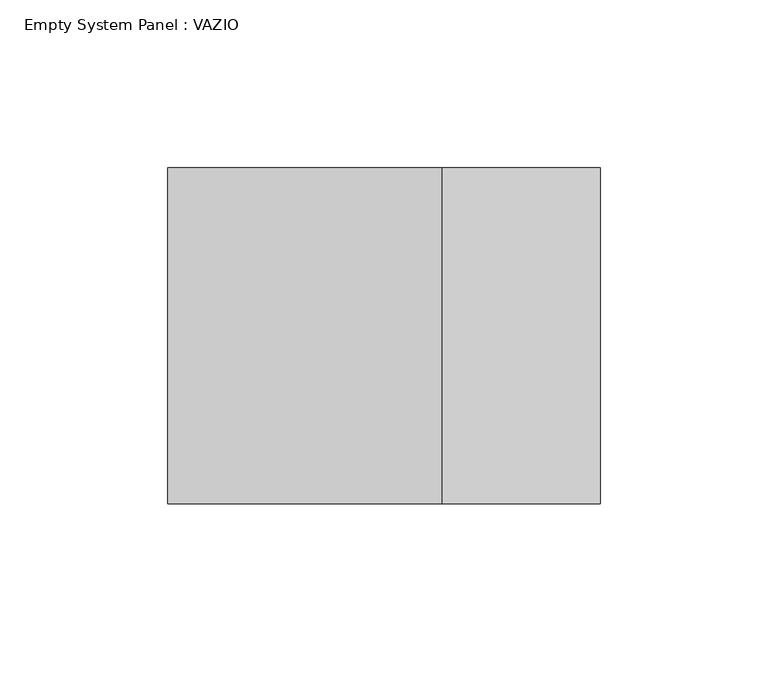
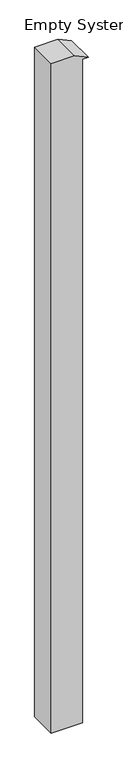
"""IFC4 building model written with IfcOpenShell, lengths in millimetres: plate geometry, Empty System Panel : VAZIO."""

from ifc_helpers import new_model, si_unit, point, frame, frame_2d, origin, place, context, project, spatial, polyline, circle_curve, trimmed, segment, composite_curve, outline, extrude, source, transform, mapped, element, save


def empty_system_panel_vazio_95a1346f(model_context):
    return source(origin(), model_context, "Body", "SweptSolid", [
        extrude(outline(composite_curve([segment(polyline([(0.0, -64.3902439), (0.0, 44.3902439), (2441.7244845, 44.3902439), (2441.7244845, 64.3902439)]), True, "CONTINUOUS"), segment(trimmed(circle_curve(frame_2d((-470.6496213, -1294.6341463)), 3213.8559746), [point((2441.7244845, 64.3902439))], [point((2463.2063533, 17.3717019))], False, "CARTESIAN"), True, "CONTINUOUS"), segment(polyline([(2463.2063533, 17.3717019), (2463.2063533, -64.3902439), (0.0, -64.3902439)]), True, "CONTINUOUS")], self_intersect=False)), frame((0.0, -50.0, 0.0), z_axis=(0.0, 1.0, 0.0), x_axis=(0.0, 0.0, 1.0)), (0.0, 0.0, 1.0), 100.0),
    ])


if __name__ == "__main__":
    model = new_model("IFC4")
    model_context = context("Model", 3, world=origin())
    ifc_project = project(units=[si_unit("LENGTHUNIT", "METRE", prefix="MILLI")], contexts=[model_context])
    site = spatial("IfcSite", under=ifc_project)
    building = spatial("IfcBuilding", under=site)
    placement = place(None, origin())
    empty_system_panel_vazio_shape = empty_system_panel_vazio_95a1346f(model_context)
    element("IfcPlate", 1, ObjectType="Empty System Panel : VAZIO", at=placement, inside=building, context=model_context, shape_type="MappedRepresentation", body=[
        mapped(empty_system_panel_vazio_shape, transform((0.0, 0.0, 0.0), x_axis=(1.0, 0.0, 0.0), y_axis=(0.0, 1.0, 0.0), z_axis=(0.0, 0.0, 1.0))),
    ])
    save(model, "model.ifc")
